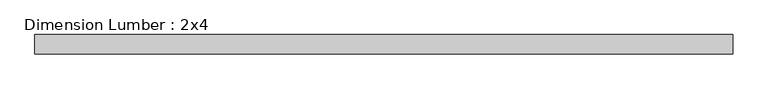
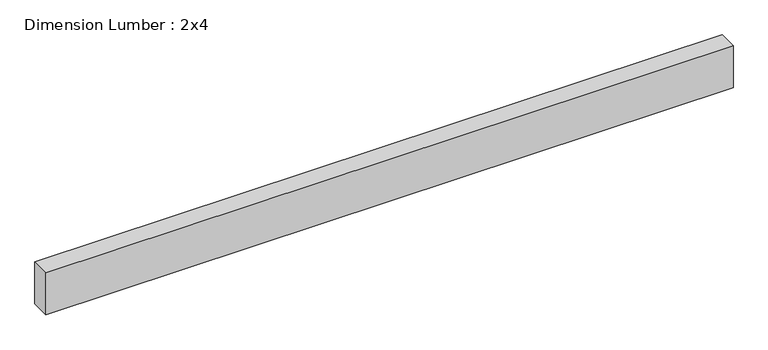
"""IFC4 building model written with IfcOpenShell, lengths in millimetres: beam geometry, Dimension Lumber : 2x4."""

from ifc_helpers import new_model, si_unit, frame, origin, place, context, project, spatial, polyline, outline, extrude, source, transform, mapped, element, save


def dimension_lumber_2x4_21d8db12(model_context):
    return source(origin(), model_context, "Body", "SweptSolid", [
        extrude(outline(polyline([(690.6029634, 19.05), (690.6029634, -19.05), (-690.6029634, -19.05), (-690.6029634, 19.05), (690.6029634, 19.05)])), frame((0.0, 0.0, -44.45), z_axis=(0.0, 0.0, 1.0), x_axis=(1.0, 0.0, 0.0)), (0.0, 0.0, 1.0), 88.9),
    ])


if __name__ == "__main__":
    model = new_model("IFC4")
    model_context = context("Model", 3, world=origin())
    ifc_project = project(units=[si_unit("LENGTHUNIT", "METRE", prefix="MILLI")], contexts=[model_context])
    site = spatial("IfcSite", under=ifc_project)
    building = spatial("IfcBuilding", under=site)
    placement = place(None, origin())
    dimension_lumber_2x4_shape = dimension_lumber_2x4_21d8db12(model_context)
    element("IfcBeam", 1, ObjectType="Dimension Lumber : 2x4", at=placement, inside=building, context=model_context, shape_type="MappedRepresentation", body=[
        mapped(dimension_lumber_2x4_shape, transform((0.0, 0.0, 0.0), x_axis=(1.0, 0.0, 0.0), y_axis=(0.0, 1.0, 0.0), z_axis=(0.0, 0.0, 1.0))),
    ])
    save(model, "model.ifc")
